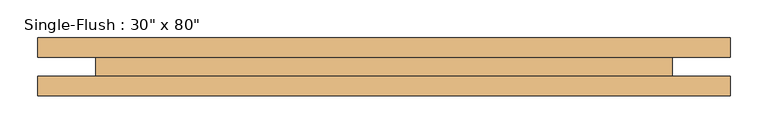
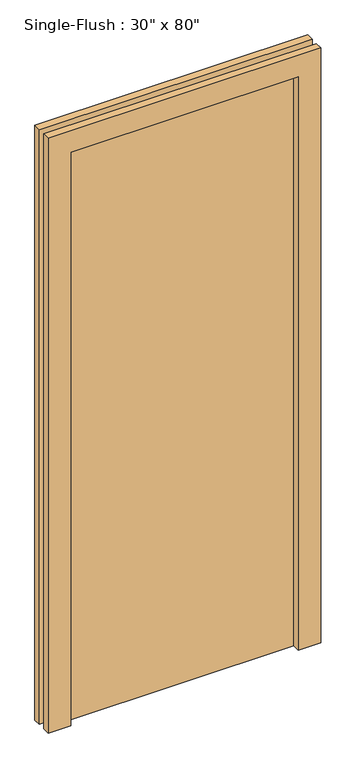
"""IFC4 building model written with IfcOpenShell, lengths in millimetres: door geometry."""

from ifc_helpers import new_model, si_unit, frame, origin, origin_with_axes, place, context, project, spatial, polyline, outline, extrude, source, transform, mapped, element, save


def door_cef5613e(model_context):
    return source(origin(), model_context, "Body", "SweptSolid", [
        extrude(outline(polyline([(2108.2, -457.2), (0.0, -457.2), (0.0, -381.0), (2032.0, -381.0), (2032.0, 381.0), (0.0, 381.0), (0.0, 457.2), (2108.2, 457.2), (2108.2, -457.2)])), frame((0.0, -38.1, 0.0), z_axis=(0.0, 1.0, 0.0), x_axis=(0.0, 0.0, 1.0)), (0.0, 0.0, 1.0), 25.4),
        extrude(outline(polyline([(2108.2, 457.2), (2108.2, -457.2), (0.0, -457.2), (0.0, -381.0), (2032.0, -381.0), (2032.0, 381.0), (0.0, 381.0), (0.0, 457.2), (2108.2, 457.2)])), frame((0.0, 12.7, 0.0), z_axis=(0.0, 1.0, 0.0), x_axis=(0.0, 0.0, 1.0)), (0.0, 0.0, 1.0), 25.4),
        extrude(outline(polyline([(381.0, 38.1), (381.0, -12.7), (-381.0, -12.7), (-381.0, 38.1), (381.0, 38.1)])), origin_with_axes(), (0.0, 0.0, 1.0), 2032.0),
    ])


if __name__ == "__main__":
    model = new_model("IFC4")
    model_context = context("Model", 3, world=origin())
    ifc_project = project(units=[si_unit("LENGTHUNIT", "METRE", prefix="MILLI")], contexts=[model_context])
    site = spatial("IfcSite", under=ifc_project)
    building = spatial("IfcBuilding", under=site)
    placement = place(None, origin())
    door_shape = door_cef5613e(model_context)
    element("IfcDoor", 1, ObjectType="Single-Flush : 30\" x 80\"", at=placement, inside=building, context=model_context, shape_type="MappedRepresentation", body=[
        mapped(door_shape, transform((0.0, 0.0, 0.0), x_axis=(1.0, 0.0, 0.0), y_axis=(0.0, 1.0, 0.0), z_axis=(0.0, 0.0, 1.0))),
    ])
    save(model, "model.ifc")
